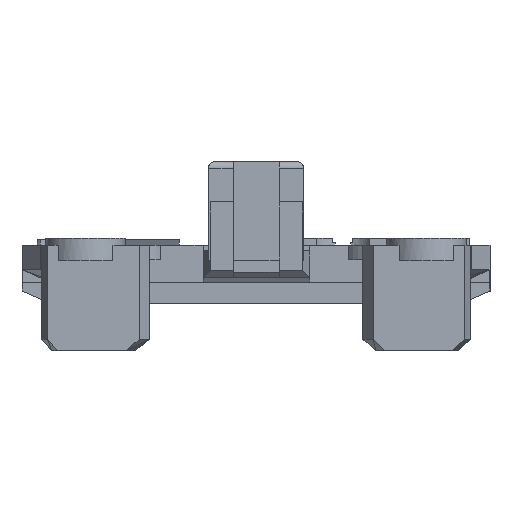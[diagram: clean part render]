
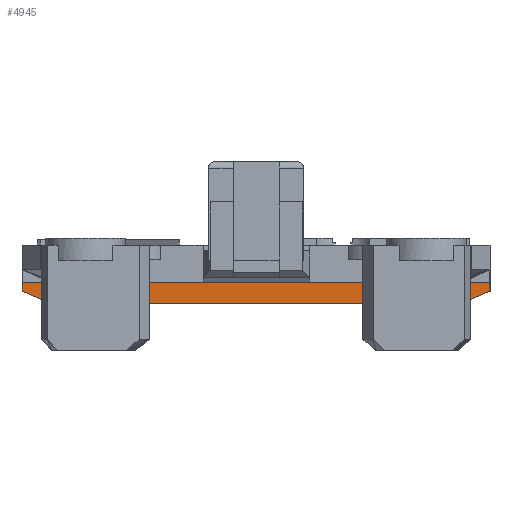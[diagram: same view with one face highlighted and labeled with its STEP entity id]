
A CAD part, left-side view. The second image highlights one B-rep face of the part: STEP entity #4945.
In plain terms, the highlighted planar face has unit normal (-1, 0, 0).
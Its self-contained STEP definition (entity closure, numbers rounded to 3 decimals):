
#44 = PLANE('',#45);
#45 = AXIS2_PLACEMENT_3D('',#46,#47,#48);
#46 = CARTESIAN_POINT('',(-9.7,16.475,2.78));
#47 = DIRECTION('',(-0.,1.,0.));
#48 = DIRECTION('',(0.,0.,1.));
#454 = VERTEX_POINT('',#455);
#455 = CARTESIAN_POINT('',(-9.1,16.475,2.171));
#469 = PLANE('',#470);
#470 = AXIS2_PLACEMENT_3D('',#471,#472,#473);
#471 = CARTESIAN_POINT('',(-9.25,14.465,1.28));
#472 = DIRECTION('',(0.,-0.405,0.914));
#473 = DIRECTION('',(0.,0.914,0.405));
#481 = EDGE_CURVE('',#482,#454,#484,.T.);
#482 = VERTEX_POINT('',#483);
#483 = CARTESIAN_POINT('',(-9.1,16.475,2.78));
#484 = SURFACE_CURVE('',#485,(#489,#496),.PCURVE_S1.);
#485 = LINE('',#486,#487);
#486 = CARTESIAN_POINT('',(-9.1,16.475,1.28));
#487 = VECTOR('',#488,1.);
#488 = DIRECTION('',(-0.,0.,-1.));
#489 = PCURVE('',#44,#490);
#490 = DEFINITIONAL_REPRESENTATION('',(#491),#495);
#491 = LINE('',#492,#493);
#492 = CARTESIAN_POINT('',(-1.5,0.6));
#493 = VECTOR('',#494,1.);
#494 = DIRECTION('',(-1.,0.));
#495 = ( GEOMETRIC_REPRESENTATION_CONTEXT(2) 
PARAMETRIC_REPRESENTATION_CONTEXT() REPRESENTATION_CONTEXT('2D SPACE',''
  ) );
#496 = PCURVE('',#497,#502);
#497 = PLANE('',#498);
#498 = AXIS2_PLACEMENT_3D('',#499,#500,#501);
#499 = CARTESIAN_POINT('',(-9.1,-20.,-0.22));
#500 = DIRECTION('',(1.,0.,-0.));
#501 = DIRECTION('',(0.,0.,1.));
#502 = DEFINITIONAL_REPRESENTATION('',(#503),#507);
#503 = LINE('',#504,#505);
#504 = CARTESIAN_POINT('',(1.5,-36.475));
#505 = VECTOR('',#506,1.);
#506 = DIRECTION('',(-1.,-0.));
#507 = ( GEOMETRIC_REPRESENTATION_CONTEXT(2) 
PARAMETRIC_REPRESENTATION_CONTEXT() REPRESENTATION_CONTEXT('2D SPACE',''
  ) );
#525 = PLANE('',#526);
#526 = AXIS2_PLACEMENT_3D('',#527,#528,#529);
#527 = CARTESIAN_POINT('',(-11.001,-20.,2.78));
#528 = DIRECTION('',(0.,0.,1.));
#529 = DIRECTION('',(1.,0.,-0.));
#4868 = VERTEX_POINT('',#4869);
#4869 = CARTESIAN_POINT('',(-9.1,14.465,1.28));
#4885 = PLANE('',#4886);
#4886 = AXIS2_PLACEMENT_3D('',#4887,#4888,#4889);
#4887 = CARTESIAN_POINT('',(-9.7,-16.475,1.28));
#4888 = DIRECTION('',(0.,0.,1.));
#4889 = DIRECTION('',(1.,0.,-0.));
#4925 = EDGE_CURVE('',#454,#4868,#4926,.T.);
#4926 = SURFACE_CURVE('',#4927,(#4931,#4938),.PCURVE_S1.);
#4927 = LINE('',#4928,#4929);
#4928 = CARTESIAN_POINT('',(-9.1,-0.216,-5.227));
#4929 = VECTOR('',#4930,1.);
#4930 = DIRECTION('',(0.,-0.914,-0.405));
#4931 = PCURVE('',#469,#4932);
#4932 = DEFINITIONAL_REPRESENTATION('',(#4933),#4937);
#4933 = LINE('',#4934,#4935);
#4934 = CARTESIAN_POINT('',(-16.058,-0.15));
#4935 = VECTOR('',#4936,1.);
#4936 = DIRECTION('',(-1.,-0.));
#4937 = ( GEOMETRIC_REPRESENTATION_CONTEXT(2) 
PARAMETRIC_REPRESENTATION_CONTEXT() REPRESENTATION_CONTEXT('2D SPACE',''
  ) );
#4938 = PCURVE('',#497,#4939);
#4939 = DEFINITIONAL_REPRESENTATION('',(#4940),#4944);
#4940 = LINE('',#4941,#4942);
#4941 = CARTESIAN_POINT('',(-5.007,-19.784));
#4942 = VECTOR('',#4943,1.);
#4943 = DIRECTION('',(-0.405,0.914));
#4944 = ( GEOMETRIC_REPRESENTATION_CONTEXT(2) 
PARAMETRIC_REPRESENTATION_CONTEXT() REPRESENTATION_CONTEXT('2D SPACE',''
  ) );
#4945 = ADVANCED_FACE('',(#4946),#497,.F.);
#4946 = FACE_BOUND('',#4947,.F.);
#4947 = EDGE_LOOP('',(#4948,#4971,#4999,#5027,#5048,#5049));
#4948 = ORIENTED_EDGE('',*,*,#4949,.F.);
#4949 = EDGE_CURVE('',#4950,#482,#4952,.T.);
#4950 = VERTEX_POINT('',#4951);
#4951 = CARTESIAN_POINT('',(-9.1,-16.475,2.78));
#4952 = SURFACE_CURVE('',#4953,(#4957,#4964),.PCURVE_S1.);
#4953 = LINE('',#4954,#4955);
#4954 = CARTESIAN_POINT('',(-9.1,-20.,2.78));
#4955 = VECTOR('',#4956,1.);
#4956 = DIRECTION('',(-0.,1.,0.));
#4957 = PCURVE('',#497,#4958);
#4958 = DEFINITIONAL_REPRESENTATION('',(#4959),#4963);
#4959 = LINE('',#4960,#4961);
#4960 = CARTESIAN_POINT('',(3.,0.));
#4961 = VECTOR('',#4962,1.);
#4962 = DIRECTION('',(0.,-1.));
#4963 = ( GEOMETRIC_REPRESENTATION_CONTEXT(2) 
PARAMETRIC_REPRESENTATION_CONTEXT() REPRESENTATION_CONTEXT('2D SPACE',''
  ) );
#4964 = PCURVE('',#525,#4965);
#4965 = DEFINITIONAL_REPRESENTATION('',(#4966),#4970);
#4966 = LINE('',#4967,#4968);
#4967 = CARTESIAN_POINT('',(1.901,0.));
#4968 = VECTOR('',#4969,1.);
#4969 = DIRECTION('',(0.,1.));
#4970 = ( GEOMETRIC_REPRESENTATION_CONTEXT(2) 
PARAMETRIC_REPRESENTATION_CONTEXT() REPRESENTATION_CONTEXT('2D SPACE',''
  ) );
#4971 = ORIENTED_EDGE('',*,*,#4972,.T.);
#4972 = EDGE_CURVE('',#4950,#4973,#4975,.T.);
#4973 = VERTEX_POINT('',#4974);
#4974 = CARTESIAN_POINT('',(-9.1,-16.475,2.17));
#4975 = SURFACE_CURVE('',#4976,(#4980,#4987),.PCURVE_S1.);
#4976 = LINE('',#4977,#4978);
#4977 = CARTESIAN_POINT('',(-9.1,-16.475,1.28));
#4978 = VECTOR('',#4979,1.);
#4979 = DIRECTION('',(-0.,0.,-1.));
#4980 = PCURVE('',#497,#4981);
#4981 = DEFINITIONAL_REPRESENTATION('',(#4982),#4986);
#4982 = LINE('',#4983,#4984);
#4983 = CARTESIAN_POINT('',(1.5,-3.525));
#4984 = VECTOR('',#4985,1.);
#4985 = DIRECTION('',(-1.,-0.));
#4986 = ( GEOMETRIC_REPRESENTATION_CONTEXT(2) 
PARAMETRIC_REPRESENTATION_CONTEXT() REPRESENTATION_CONTEXT('2D SPACE',''
  ) );
#4987 = PCURVE('',#4988,#4993);
#4988 = PLANE('',#4989);
#4989 = AXIS2_PLACEMENT_3D('',#4990,#4991,#4992);
#4990 = CARTESIAN_POINT('',(-9.7,-16.475,2.78));
#4991 = DIRECTION('',(-0.,1.,0.));
#4992 = DIRECTION('',(0.,0.,1.));
#4993 = DEFINITIONAL_REPRESENTATION('',(#4994),#4998);
#4994 = LINE('',#4995,#4996);
#4995 = CARTESIAN_POINT('',(-1.5,0.6));
#4996 = VECTOR('',#4997,1.);
#4997 = DIRECTION('',(-1.,0.));
#4998 = ( GEOMETRIC_REPRESENTATION_CONTEXT(2) 
PARAMETRIC_REPRESENTATION_CONTEXT() REPRESENTATION_CONTEXT('2D SPACE',''
  ) );
#4999 = ORIENTED_EDGE('',*,*,#5000,.T.);
#5000 = EDGE_CURVE('',#4973,#5001,#5003,.T.);
#5001 = VERTEX_POINT('',#5002);
#5002 = CARTESIAN_POINT('',(-9.1,-14.501,1.28));
#5003 = SURFACE_CURVE('',#5004,(#5008,#5015),.PCURVE_S1.);
#5004 = LINE('',#5005,#5006);
#5005 = CARTESIAN_POINT('',(-9.1,-16.505,2.184));
#5006 = VECTOR('',#5007,1.);
#5007 = DIRECTION('',(-0.,0.912,-0.411));
#5008 = PCURVE('',#497,#5009);
#5009 = DEFINITIONAL_REPRESENTATION('',(#5010),#5014);
#5010 = LINE('',#5011,#5012);
#5011 = CARTESIAN_POINT('',(2.404,-3.495));
#5012 = VECTOR('',#5013,1.);
#5013 = DIRECTION('',(-0.411,-0.912));
#5014 = ( GEOMETRIC_REPRESENTATION_CONTEXT(2) 
PARAMETRIC_REPRESENTATION_CONTEXT() REPRESENTATION_CONTEXT('2D SPACE',''
  ) );
#5015 = PCURVE('',#5016,#5021);
#5016 = PLANE('',#5017);
#5017 = AXIS2_PLACEMENT_3D('',#5018,#5019,#5020);
#5018 = CARTESIAN_POINT('',(-9.25,-14.501,1.28));
#5019 = DIRECTION('',(0.,-0.411,-0.912));
#5020 = DIRECTION('',(0.,-0.912,0.411));
#5021 = DEFINITIONAL_REPRESENTATION('',(#5022),#5026);
#5022 = LINE('',#5023,#5024);
#5023 = CARTESIAN_POINT('',(2.198,-0.15));
#5024 = VECTOR('',#5025,1.);
#5025 = DIRECTION('',(-1.,-0.));
#5026 = ( GEOMETRIC_REPRESENTATION_CONTEXT(2) 
PARAMETRIC_REPRESENTATION_CONTEXT() REPRESENTATION_CONTEXT('2D SPACE',''
  ) );
#5027 = ORIENTED_EDGE('',*,*,#5028,.T.);
#5028 = EDGE_CURVE('',#5001,#4868,#5029,.T.);
#5029 = SURFACE_CURVE('',#5030,(#5034,#5041),.PCURVE_S1.);
#5030 = LINE('',#5031,#5032);
#5031 = CARTESIAN_POINT('',(-9.1,-18.238,1.28));
#5032 = VECTOR('',#5033,1.);
#5033 = DIRECTION('',(-0.,1.,0.));
#5034 = PCURVE('',#497,#5035);
#5035 = DEFINITIONAL_REPRESENTATION('',(#5036),#5040);
#5036 = LINE('',#5037,#5038);
#5037 = CARTESIAN_POINT('',(1.5,-1.763));
#5038 = VECTOR('',#5039,1.);
#5039 = DIRECTION('',(0.,-1.));
#5040 = ( GEOMETRIC_REPRESENTATION_CONTEXT(2) 
PARAMETRIC_REPRESENTATION_CONTEXT() REPRESENTATION_CONTEXT('2D SPACE',''
  ) );
#5041 = PCURVE('',#4885,#5042);
#5042 = DEFINITIONAL_REPRESENTATION('',(#5043),#5047);
#5043 = LINE('',#5044,#5045);
#5044 = CARTESIAN_POINT('',(0.6,-1.763));
#5045 = VECTOR('',#5046,1.);
#5046 = DIRECTION('',(0.,1.));
#5047 = ( GEOMETRIC_REPRESENTATION_CONTEXT(2) 
PARAMETRIC_REPRESENTATION_CONTEXT() REPRESENTATION_CONTEXT('2D SPACE',''
  ) );
#5048 = ORIENTED_EDGE('',*,*,#4925,.F.);
#5049 = ORIENTED_EDGE('',*,*,#481,.F.);
